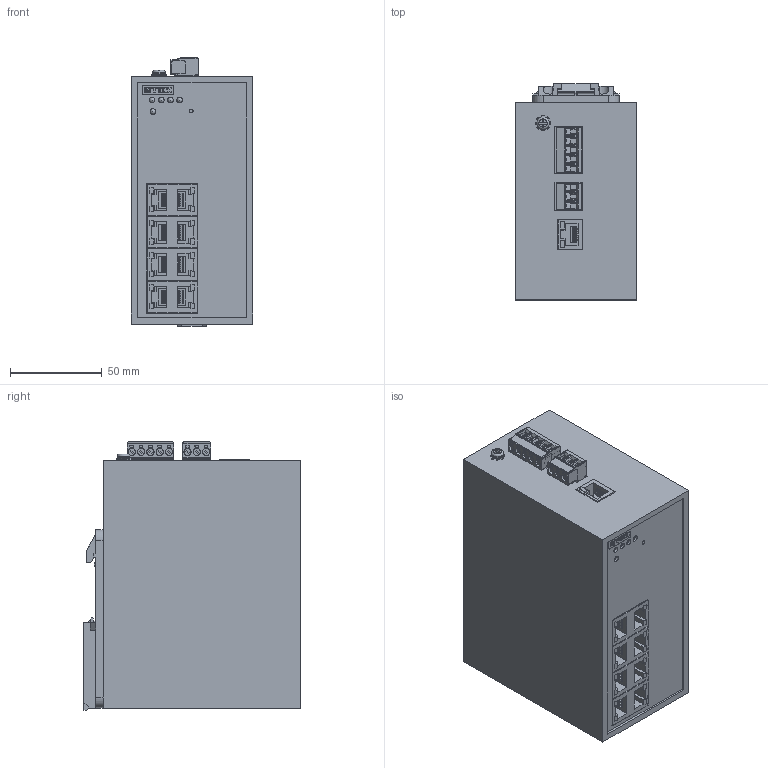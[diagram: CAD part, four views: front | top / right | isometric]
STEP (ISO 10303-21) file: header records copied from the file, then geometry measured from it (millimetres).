
FILE_DESCRIPTION(('TFLEX Exchange Step'),'2;1');
FILE_NAME('70110007_STEZ3208.stp', '2025-08-27T10:18:36+03:00',('YLedovskikh'),('Unknown organisation'),'TFLEX Exchange 2023.2','T-FLEX CAD','Unknown authorisation');
FILE_SCHEMA( ('AUTOMOTIVE_DESIGN { 1 0 10303 214 1 1 1 1 }') );
Length unit declared in the file: millimetre
Products named in the file (1): Тело_27:1
Bounding box: 66 x 118 x 146.4 mm (x, y, z)
Volume: 961556.8 mm3; surface area: 105215.5 mm2
Topology: 5 solids, 31 shells, 2604 faces, 7694 edges, 5102 vertices
Faces by surface type: plane 1873, cylinder 504, bspline 160, cone 32, sphere 17, extrusion 16, torus 2
Full cylindrical faces by diameter (mm): 2 x1, 3 x13, 3.1 x5, 3.821 x8, 4 x9, 4.2 x5, 4.4 x1, 6.8 x1
Entity records: 89802 total; most frequent: CARTESIAN_POINT 19086, ORIENTED_EDGE 15346, DIRECTION 13217, EDGE_CURVE 7673, VECTOR 5845, LINE 5829, VERTEX_POINT 5094, AXIS2_PLACEMENT_3D 3686
